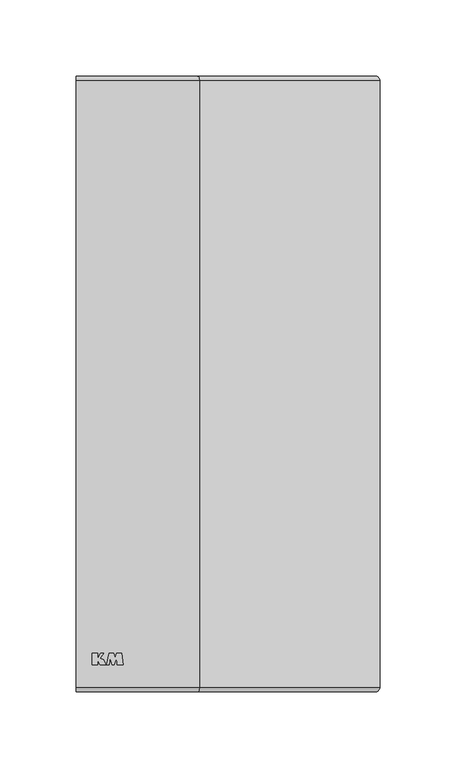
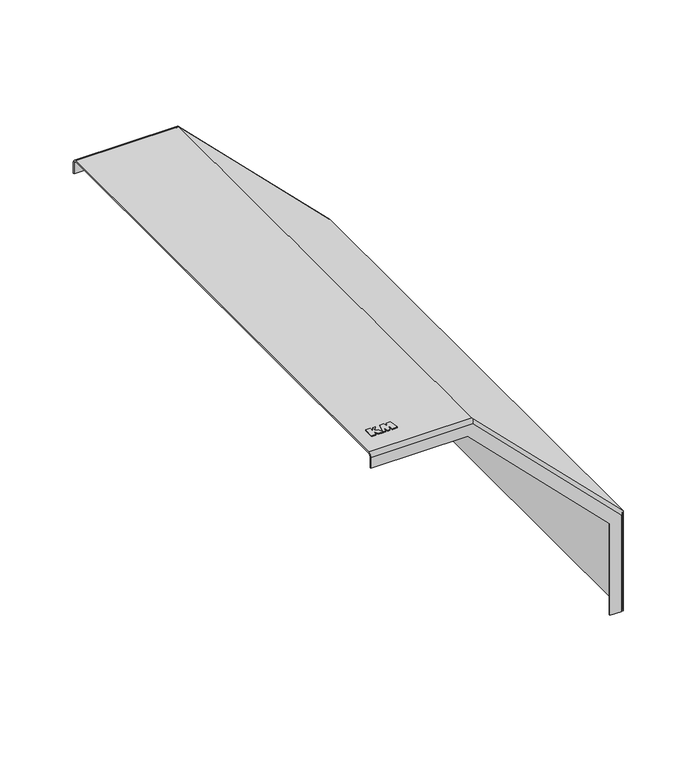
"""IFC4 building model written with IfcOpenShell, lengths in millimetres: cable carrier fitting geometry, КМ Профиль Крышка внешнего вертикального угла KVL90 : Крышка вертикального внешнего угла 90°."""

from ifc_helpers import new_model, si_unit, frame, origin, place, context, project, spatial, polyline, circle_curve, ellipse_curve, outline, extrude, source, transform, mapped, element, save
from ifc_brep_helpers import plane_surface, cylinder_surface, revolved_surface, advanced_brep


def cable_carrier_fitting_a7037c9d(model_context):
    return source(origin(), model_context, "Body", "SolidModel", [
        extrude(outline(polyline([(10.7611219, -176.986157), (14.2683808, -176.986157), (14.2683808, -180.564509), (16.1710243, -176.986157), (18.296989, -176.986157), (15.8305045, -180.5086619), (18.0722556, -181.194034), (19.9395647, -184.737421), (16.0411533, -184.737421), (14.3369488, -181.5720802), (14.3369488, -184.737421), (10.7611219, -184.737421), (10.7611219, -176.986157)])), frame((0.0, 0.0, 3.0), z_axis=(0.0, 0.0, 1.0), x_axis=(1.0, 0.0, 0.0)), (0.0, 0.0, 1.0), 0.8),
        extrude(outline(polyline([(22.0037241, -184.737421), (20.1056605, -184.737421), (21.9259411, -176.9647569), (24.9566696, -176.9647569), (25.7231703, -180.0390232), (26.7444777, -176.9623682), (29.9384326, -176.9623682), (31.1299301, -184.7429915), (27.2274895, -184.7429915), (26.7499968, -180.0541919), (25.2699283, -184.7434681), (23.7954176, -184.7434681), (22.3873988, -180.0696135), (22.0037241, -184.737421)])), frame((0.0, 0.0, 3.0), z_axis=(0.0, 0.0, 1.0), x_axis=(1.0, 0.0, 0.0)), (0.0, 0.0, 1.0), 0.8),
        advanced_brep(
        [(0.0, -199.5, 3.0), (0.0, 199.5, 3.0), (0.0, 202.5, 0.0), (0.0, 202.5, -9.0), (0.0, 201.5, -9.0), (0.0, 201.5, 0.0), (0.0, 199.5, 2.0), (0.0, -199.5, 2.0), (0.0, -201.5, 0.0), (0.0, -201.5, -9.0), (0.0, -202.5, -9.0), (0.0, -202.5, 0.0), (81.2426407, -199.5, 3.0), (81.2426407, 199.5, 3.0), (80.0, 202.5, 0.0), (197.0, 202.5, -117.0), (197.0, 202.5, -197.0), (188.0, 202.5, -197.0), (188.0, 202.5, -120.7279221), (76.2720779, 202.5, -9.0), (76.2720779, 201.5, -9.0), (188.0, 201.5, -120.7279221), (188.0, 201.5, -197.0), (197.0, 201.5, -197.0), (197.0, 201.5, -117.0), (80.0, 201.5, 0.0), (80.8284271, 199.5, 2.0), (80.8284271, -199.5, 2.0), (80.0, -201.5, 0.0), (197.0, -201.5, -117.0), (197.0, -201.5, -197.0), (188.0, -201.5, -197.0), (188.0, -201.5, -120.7279221), (76.2720779, -201.5, -9.0), (76.2720779, -202.5, -9.0), (188.0, -202.5, -120.7279221), (188.0, -202.5, -197.0), (197.0, -202.5, -197.0), (197.0, -202.5, -117.0), (80.0, -202.5, 0.0), (200.0, -199.5, -197.0), (199.0, -199.5, -197.0), (199.0, 199.5, -197.0), (200.0, 199.5, -197.0), (200.0, -199.5, -115.7573593), (200.0, 199.5, -115.7573593), (199.0, 199.5, -116.1715729), (199.0, -199.5, -116.1715729)],
        [
            (0, 1),
            (1, 2, circle_curve(frame((0.0, 199.5, 0.0), z_axis=(-1.0, 0.0, 0.0), x_axis=(0.0, 0.0, 1.0)), 3.0)),
            (2, 3),
            (3, 4),
            (4, 5),
            (5, 6, circle_curve(frame((0.0, 199.5, 0.0), z_axis=(1.0, 0.0, 0.0), x_axis=(0.0, 0.0, 1.0)), 2.0)),
            (6, 7),
            (7, 8, circle_curve(frame((0.0, -199.5, 0.0), z_axis=(1.0, 0.0, 0.0), x_axis=(0.0, 0.0, 1.0)), 2.0)),
            (8, 9),
            (9, 10),
            (10, 11),
            (11, 0, circle_curve(frame((0.0, -199.5, 0.0), z_axis=(-1.0, 0.0, 0.0), x_axis=(0.0, 0.0, 1.0)), 3.0)),
            (0, 12),
            (12, 13),
            (13, 1),
            (13, 14, ellipse_curve(frame((80.0, 199.5, 0.0), z_axis=(-0.9238795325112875, 0.0, 0.3826834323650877), x_axis=(-0.3826834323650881, 0.0, -0.9238795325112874)), 3.2471766, 3.0)),
            (14, 2),
            (14, 15),
            (15, 16),
            (16, 17),
            (17, 18),
            (18, 19),
            (19, 3),
            (19, 20),
            (20, 4),
            (20, 21),
            (21, 22),
            (22, 23),
            (23, 24),
            (24, 25),
            (25, 5),
            (25, 26, ellipse_curve(frame((80.0, 199.5, 0.0), z_axis=(0.9238795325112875, 0.0, -0.3826834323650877), x_axis=(0.3826834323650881, 0.0, 0.9238795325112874)), 2.1647844, 2.0)),
            (26, 6),
            (26, 27),
            (27, 7),
            (27, 28, ellipse_curve(frame((80.0, -199.5, 0.0), z_axis=(0.9238795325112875, 0.0, -0.3826834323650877), x_axis=(0.3826834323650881, 0.0, 0.9238795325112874)), 2.1647844, 2.0)),
            (28, 8),
            (28, 29),
            (29, 30),
            (30, 31),
            (31, 32),
            (32, 33),
            (33, 9),
            (33, 34),
            (34, 10),
            (34, 35),
            (35, 36),
            (36, 37),
            (37, 38),
            (38, 39),
            (39, 11),
            (39, 12, ellipse_curve(frame((80.0, -199.5, 0.0), z_axis=(-0.9238795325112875, 0.0, 0.3826834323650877), x_axis=(-0.3826834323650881, 0.0, -0.9238795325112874)), 3.2471766, 3.0)),
            (40, 37, circle_curve(frame((197.0, -199.5, -197.0), z_axis=(0.0, 0.0, -1.0), x_axis=(1.0, 0.0, 0.0)), 3.0)),
            (36, 31),
            (30, 41, circle_curve(frame((197.0, -199.5, -197.0), z_axis=(0.0, 0.0, 1.0), x_axis=(1.0, 0.0, 0.0)), 2.0)),
            (41, 42),
            (42, 23, circle_curve(frame((197.0, 199.5, -197.0), z_axis=(0.0, 0.0, 1.0), x_axis=(1.0, 0.0, 0.0)), 2.0)),
            (22, 17),
            (16, 43, circle_curve(frame((197.0, 199.5, -197.0), z_axis=(0.0, 0.0, -1.0), x_axis=(1.0, 0.0, 0.0)), 3.0)),
            (43, 40),
            (12, 44),
            (44, 45),
            (45, 13),
            (45, 15, ellipse_curve(frame((197.0, 199.5, -117.0), z_axis=(-0.38268343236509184, 0.0, 0.9238795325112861), x_axis=(-0.9238795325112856, 0.0, -0.38268343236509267)), 3.2471766, 3.0)),
            (18, 21),
            (24, 46, ellipse_curve(frame((197.0, 199.5, -117.0), z_axis=(0.38268343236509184, 0.0, -0.9238795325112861), x_axis=(0.9238795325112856, 0.0, 0.38268343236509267)), 2.1647844, 2.0)),
            (46, 26),
            (46, 47),
            (47, 27),
            (47, 29, ellipse_curve(frame((197.0, -199.5, -117.0), z_axis=(0.38268343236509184, 0.0, -0.9238795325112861), x_axis=(0.9238795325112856, 0.0, 0.38268343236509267)), 2.1647844, 2.0)),
            (32, 35),
            (38, 44, ellipse_curve(frame((197.0, -199.5, -117.0), z_axis=(-0.38268343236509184, 0.0, 0.9238795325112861), x_axis=(-0.9238795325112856, 0.0, -0.38268343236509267)), 3.2471766, 3.0)),
            (44, 40),
            (43, 45),
            (42, 46),
            (41, 47),
        ],
        [
            plane_surface(frame((0.0, 0.0, 0.0), z_axis=(-1.0, 0.0, 0.0), x_axis=(0.0, -1.0, 0.0))),
            plane_surface(frame((0.0, -199.5, 3.0), z_axis=(0.0, 0.0, 1.0), x_axis=(1.0, 0.0, 0.0))),
            cylinder_surface(frame((0.0, 199.5, 0.0), z_axis=(-1.0, 0.0, 0.0), x_axis=(0.0, 0.0, 1.0)), 3.0),
            plane_surface(frame((0.0, 202.5, 0.0), z_axis=(0.0, 1.0, 0.0), x_axis=(1.0, 0.0, 0.0))),
            plane_surface(frame((0.0, 202.5, -9.0), z_axis=(0.0, 0.0, -1.0), x_axis=(1.0, 0.0, 0.0))),
            plane_surface(frame((0.0, 201.5, -9.0), z_axis=(0.0, -1.0, 0.0), x_axis=(1.0, 0.0, 0.0))),
            revolved_surface(polyline([(80.82842712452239, 199.5, 2.0), (0.0, 199.5, 2.0)]), (0.0, 199.5, 0.0), (1.0, 0.0, 0.0)),
            plane_surface(frame((0.0, 199.5, 2.0), z_axis=(0.0, 0.0, -1.0), x_axis=(1.0, 0.0, 0.0))),
            revolved_surface(polyline([(80.82842712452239, -199.5, 2.0), (0.0, -199.5, 2.0)]), (0.0, -199.5, 0.0), (1.0, 0.0, 0.0)),
            plane_surface(frame((0.0, -201.5, 0.0), z_axis=(0.0, 1.0, 0.0), x_axis=(1.0, 0.0, 0.0))),
            plane_surface(frame((0.0, -201.5, -9.0), z_axis=(0.0, 0.0, -1.0), x_axis=(1.0, 0.0, 0.0))),
            plane_surface(frame((0.0, -202.5, -9.0), z_axis=(0.0, -1.0, 0.0), x_axis=(1.0, 0.0, 0.0))),
            cylinder_surface(frame((0.0, -199.5, 0.0), z_axis=(-1.0, 0.0, 0.0), x_axis=(0.0, 0.0, 1.0)), 3.0),
            plane_surface(frame((197.0, 0.0, -197.0), z_axis=(0.0, 0.0, -1.0), x_axis=(0.0, -1.0, 0.0))),
            plane_surface(frame((81.2426407, -199.5, 3.0), z_axis=(0.7071067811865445, 0.0, 0.7071067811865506), x_axis=(0.7071067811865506, 0.0, -0.7071067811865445))),
            cylinder_surface(frame((80.0, 199.5, 0.0), z_axis=(-0.7071067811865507, 0.0, 0.7071067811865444), x_axis=(0.7071067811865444, 0.0, 0.7071067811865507)), 3.0),
            plane_surface(frame((76.2720779, 202.5, -9.0), z_axis=(-0.7071067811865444, 0.0, -0.7071067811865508), x_axis=(0.7071067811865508, 0.0, -0.7071067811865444))),
            revolved_surface(polyline([(199.00000001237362, 199.5, -116.17157288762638), (80.82842711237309, 199.5, 2.0000000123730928)]), (80.0, 199.5, 0.0), (0.7071067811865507, 0.0, -0.7071067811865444)),
            plane_surface(frame((80.8284271, 199.5, 2.0), z_axis=(-0.7071067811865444, 0.0, -0.7071067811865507), x_axis=(0.7071067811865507, 0.0, -0.7071067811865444))),
            revolved_surface(polyline([(199.00000001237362, -199.5, -116.17157288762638), (80.82842711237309, -199.5, 2.0000000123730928)]), (80.0, -199.5, 0.0), (0.7071067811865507, 0.0, -0.7071067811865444)),
            plane_surface(frame((76.2720779, -201.5, -9.0), z_axis=(-0.7071067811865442, 0.0, -0.7071067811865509), x_axis=(0.7071067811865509, 0.0, -0.7071067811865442))),
            cylinder_surface(frame((80.0, -199.5, 0.0), z_axis=(-0.7071067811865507, 0.0, 0.7071067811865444), x_axis=(0.7071067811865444, 0.0, 0.7071067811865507)), 3.0),
            plane_surface(frame((200.0, -199.5, -115.7573593), z_axis=(1.0, 0.0, 0.0), x_axis=(0.0, 0.0, -1.0))),
            cylinder_surface(frame((197.0, 199.5, -117.0), z_axis=(0.0, 0.0, 1.0), x_axis=(1.0, 0.0, 0.0)), 3.0),
            plane_surface(frame((188.0, 202.5, -120.7279221), z_axis=(-1.0, 0.0, 0.0), x_axis=(0.0, 0.0, -1.0))),
            revolved_surface(polyline([(199.0, 199.5, -197.0), (199.0, 199.5, -116.1715728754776)]), (197.0, 199.5, -117.0), (0.0, 0.0, -1.0)),
            plane_surface(frame((199.0, 199.5, -116.1715729), z_axis=(-1.0, 0.0, 0.0), x_axis=(0.0, 0.0, -1.0))),
            revolved_surface(polyline([(199.0, -199.5, -197.0), (199.0, -199.5, -116.1715728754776)]), (197.0, -199.5, -117.0), (0.0, 0.0, -1.0)),
            plane_surface(frame((188.0, -201.5, -120.7279221), z_axis=(-1.0, 0.0, 0.0), x_axis=(0.0, 0.0, -1.0))),
            cylinder_surface(frame((197.0, -199.5, -117.0), z_axis=(0.0, 0.0, 1.0), x_axis=(1.0, 0.0, 0.0)), 3.0),
        ],
        [
            (0, [[1, 2, 3, 4, 5, 6, 7, 8, 9, 10, 11, 12]]),
            (1, [[-1, 13, 14, 15]]),
            (2, [[-2, -15, 16, 17]]),
            (3, [[-3, -17, 18, 19, 20, 21, 22, 23]]),
            (4, [[-4, -23, 24, 25]]),
            (5, [[-5, -25, 26, 27, 28, 29, 30, 31]]),
            (6, [[-6, -31, 32, 33]]),
            (7, [[-7, -33, 34, 35]]),
            (8, [[-8, -35, 36, 37]]),
            (9, [[-9, -37, 38, 39, 40, 41, 42, 43]]),
            (10, [[-10, -43, 44, 45]]),
            (11, [[-11, -45, 46, 47, 48, 49, 50, 51]]),
            (12, [[-12, -51, 52, -13]]),
            (13, [[53, -48, 54, -40, 55, 56, 57, -28, 58, -20, 59, 60]]),
            (14, [[-14, 61, 62, 63]]),
            (15, [[-16, -63, 64, -18]]),
            (16, [[-24, -22, 65, -26]]),
            (17, [[-32, -30, 66, 67]]),
            (18, [[-34, -67, 68, 69]]),
            (19, [[-36, -69, 70, -38]]),
            (20, [[-44, -42, 71, -46]]),
            (21, [[-52, -50, 72, -61]]),
            (22, [[-62, 73, -60, 74]]),
            (23, [[-64, -74, -59, -19]]),
            (24, [[-65, -21, -58, -27]]),
            (25, [[-66, -29, -57, 75]]),
            (26, [[-68, -75, -56, 76]]),
            (27, [[-70, -76, -55, -39]]),
            (28, [[-71, -41, -54, -47]]),
            (29, [[-72, -49, -53, -73]]),
        ],
    ),
    ])


if __name__ == "__main__":
    model = new_model("IFC4")
    model_context = context("Model", 3, world=origin())
    ifc_project = project(units=[si_unit("LENGTHUNIT", "METRE", prefix="MILLI")], contexts=[model_context])
    site = spatial("IfcSite", under=ifc_project)
    building = spatial("IfcBuilding", under=site)
    placement = place(None, origin())
    cable_carrier_fitting_shape = cable_carrier_fitting_a7037c9d(model_context)
    element("IfcCableCarrierFitting", 1, ObjectType="КМ Профиль Крышка внешнего вертикального угла KVL90 : Крышка вертикального внешнего угла 90°", at=placement, inside=building, context=model_context, shape_type="MappedRepresentation", body=[
        mapped(cable_carrier_fitting_shape, transform((0.0, 0.0, 0.0), x_axis=(1.0, 0.0, 0.0), y_axis=(0.0, 1.0, 0.0), z_axis=(0.0, 0.0, 1.0))),
    ])
    save(model, "model.ifc")
